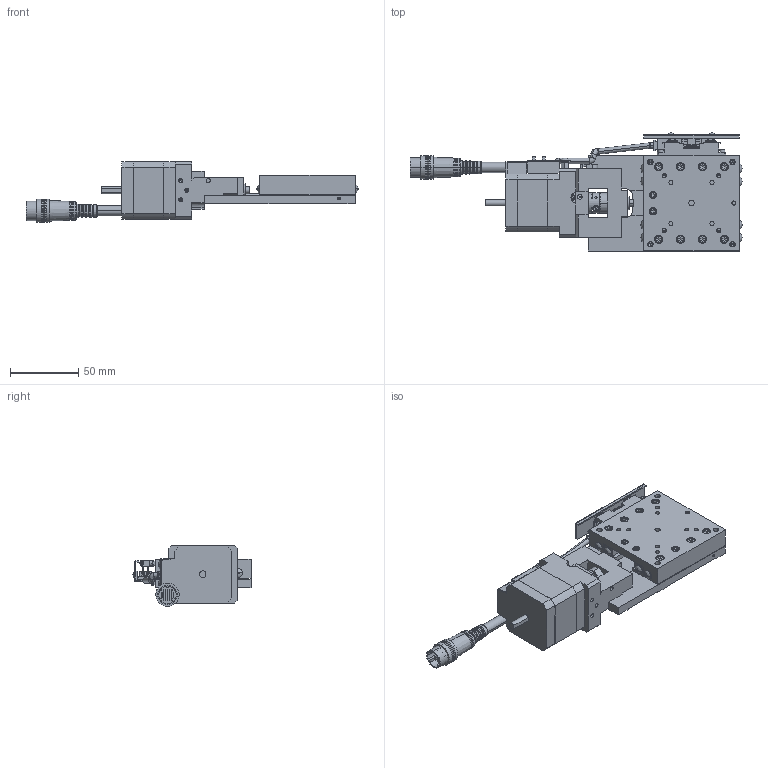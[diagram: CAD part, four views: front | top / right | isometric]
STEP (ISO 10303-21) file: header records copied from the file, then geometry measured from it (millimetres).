
FILE_DESCRIPTION (( 'STEP AP203' ), '1' );
FILE_NAME ('XA07A-R103-R.STEP', '2019-02-20T07:47:47', ( '' ), ( '' ), 'SwSTEP 2.0', 'SolidWorks 2018', '' );
FILE_SCHEMA (( 'CONFIG_CONTROL_DESIGN' ));
Length unit declared in the file: millimetre
Products named in the file (6): base-Part-3; table; base-Part-2; base; XA07A-R103-R; base-Part-1
Assembly tree (5 placements, depth 3):
  XA07A-R103-R
    base
      base-Part-1
      base-Part-2
      base-Part-3
    table
Bounding box: 242.39 x 86.18 x 44.5 mm (x, y, z)
Volume: 227460.1 mm3; surface area: 77257 mm2
Topology: 4 solids, 7 shells, 2053 faces, 5132 edges, 3156 vertices
Faces by surface type: plane 1171, cylinder 521, cone 273, torus 54, sphere 34
Entity records: 61932 total; most frequent: CARTESIAN_POINT 11387, DIRECTION 10900, ORIENTED_EDGE 10084, EDGE_CURVE 5042, AXIS2_PLACEMENT_3D 3935, VERTEX_POINT 3150, LINE 3030, VECTOR 3030
